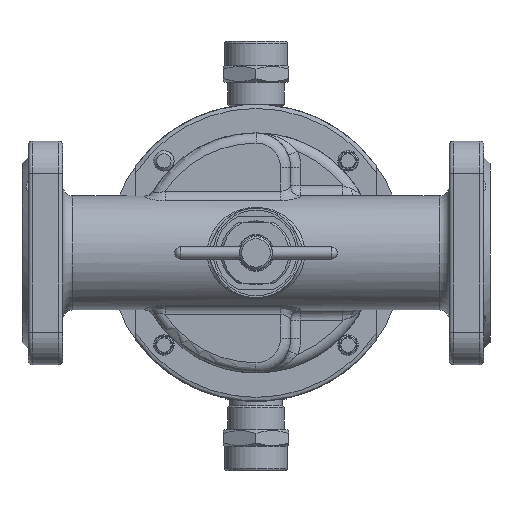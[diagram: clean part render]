
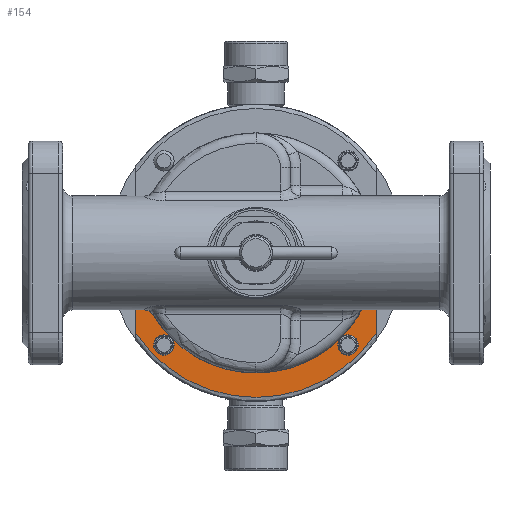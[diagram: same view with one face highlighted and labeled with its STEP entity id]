
A CAD part, front view. The second image highlights one B-rep face of the part: STEP entity #154.
In plain terms, the highlighted planar face has unit normal (0, -1, 0).
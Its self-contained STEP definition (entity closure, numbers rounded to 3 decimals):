
#154=ADVANCED_FACE('',(#4386),#4388,.F.);
#4386=FACE_OUTER_BOUND('',#4387,.T.);
#4387=EDGE_LOOP('',(#21466,#21467,#21468,#21469,#21470,#21471,#21472,#21473,#21474,
#21475));
#4388=PLANE('',#4389);
#4389=AXIS2_PLACEMENT_3D('',#4390,#4391,#4392);
#4390=CARTESIAN_POINT('',(0.,39.5,0.));
#4391=DIRECTION('',(0.,1.,0.));
#4392=DIRECTION('',(-1.,0.,0.));
#21466=ORIENTED_EDGE('',*,*,#32878,.F.);
#21467=ORIENTED_EDGE('',*,*,#32879,.F.);
#21468=ORIENTED_EDGE('',*,*,#32779,.F.);
#21469=ORIENTED_EDGE('',*,*,#32801,.F.);
#21470=ORIENTED_EDGE('',*,*,#32880,.F.);
#21471=ORIENTED_EDGE('',*,*,#32793,.F.);
#21472=ORIENTED_EDGE('',*,*,#32781,.F.);
#21473=ORIENTED_EDGE('',*,*,#32881,.F.);
#21474=ORIENTED_EDGE('',*,*,#32882,.F.);
#21475=ORIENTED_EDGE('',*,*,#32780,.F.);
#32779=EDGE_CURVE('',#37691,#37779,#37780,.T.);
#32780=EDGE_CURVE('',#37779,#37781,#37782,.T.);
#32781=EDGE_CURVE('',#37781,#37685,#37783,.T.);
#32793=EDGE_CURVE('',#37685,#37804,#37805,.T.);
#32801=EDGE_CURVE('',#37817,#37691,#37819,.T.);
#32878=EDGE_CURVE('',#37943,#37779,#37944,.T.);
#32879=EDGE_CURVE('',#37779,#37943,#37945,.T.);
#32880=EDGE_CURVE('',#37804,#37817,#37946,.T.);
#32881=EDGE_CURVE('',#37947,#37781,#37948,.T.);
#32882=EDGE_CURVE('',#37781,#37947,#37949,.T.);
#37685=VERTEX_POINT('',#45871);
#37691=VERTEX_POINT('',#45885);
#37779=VERTEX_POINT('',#46139);
#37780=CIRCLE('',#46140,59.);
#37781=VERTEX_POINT('',#46144);
#37782=CIRCLE('',#46145,59.);
#37783=CIRCLE('',#46149,59.);
#37804=VERTEX_POINT('',#46297);
#37805=LINE('',#46298,#46299);
#37817=VERTEX_POINT('',#46429);
#37819=LINE('',#46485,#46486);
#37943=VERTEX_POINT('',#46986);
#37944=CIRCLE('',#46987,5.);
#37945=CIRCLE('',#46991,5.);
#37946=CIRCLE('',#46995,71.);
#37947=VERTEX_POINT('',#46999);
#37948=CIRCLE('',#47000,5.);
#37949=CIRCLE('',#47004,5.);
#45871=CARTESIAN_POINT('',(59.,39.5,0.));
#45885=CARTESIAN_POINT('',(-59.,39.5,0.));
#46139=CARTESIAN_POINT('',(-41.719,39.5,-41.719));
#46140=AXIS2_PLACEMENT_3D('',#46141,#46142,#46143);
#46141=CARTESIAN_POINT('',(0.,39.5,0.));
#46142=DIRECTION('',(0.,-1.,0.));
#46143=DIRECTION('',(-1.,0.,0.));
#46144=CARTESIAN_POINT('',(41.719,39.5,-41.719));
#46145=AXIS2_PLACEMENT_3D('',#46146,#46147,#46148);
#46146=CARTESIAN_POINT('',(0.,39.5,0.));
#46147=DIRECTION('',(0.,-1.,0.));
#46148=DIRECTION('',(-0.707,0.,-0.707));
#46149=AXIS2_PLACEMENT_3D('',#46150,#46151,#46152);
#46150=CARTESIAN_POINT('',(0.,39.5,0.));
#46151=DIRECTION('',(0.,-1.,0.));
#46152=DIRECTION('',(0.707,0.,-0.707));
#46297=CARTESIAN_POINT('',(59.,39.5,-39.497));
#46298=CARTESIAN_POINT('',(59.,39.5,0.));
#46299=VECTOR('',#46300,1.);
#46300=DIRECTION('',(0.,0.,-1.));
#46429=CARTESIAN_POINT('',(-59.,39.5,-39.497));
#46485=CARTESIAN_POINT('',(-59.,39.5,-39.497));
#46486=VECTOR('',#46487,1.);
#46487=DIRECTION('',(0.,0.,1.));
#46986=CARTESIAN_POINT('',(-45.255,39.5,-50.255));
#46987=AXIS2_PLACEMENT_3D('',#46988,#46989,#46990);
#46988=CARTESIAN_POINT('',(-45.255,39.5,-45.255));
#46989=DIRECTION('',(0.,-1.,0.));
#46990=DIRECTION('',(0.,0.,-1.));
#46991=AXIS2_PLACEMENT_3D('',#46992,#46993,#46994);
#46992=CARTESIAN_POINT('',(-45.255,39.5,-45.255));
#46993=DIRECTION('',(0.,-1.,0.));
#46994=DIRECTION('',(0.707,0.,0.707));
#46995=AXIS2_PLACEMENT_3D('',#46996,#46997,#46998);
#46996=CARTESIAN_POINT('',(0.,39.5,0.));
#46997=DIRECTION('',(0.,1.,0.));
#46998=DIRECTION('',(0.831,0.,-0.556));
#46999=CARTESIAN_POINT('',(50.255,39.5,-45.255));
#47000=AXIS2_PLACEMENT_3D('',#47001,#47002,#47003);
#47001=CARTESIAN_POINT('',(45.255,39.5,-45.255));
#47002=DIRECTION('',(0.,-1.,0.));
#47003=DIRECTION('',(1.,0.,0.));
#47004=AXIS2_PLACEMENT_3D('',#47005,#47006,#47007);
#47005=CARTESIAN_POINT('',(45.255,39.5,-45.255));
#47006=DIRECTION('',(0.,-1.,0.));
#47007=DIRECTION('',(-0.707,0.,0.707));
